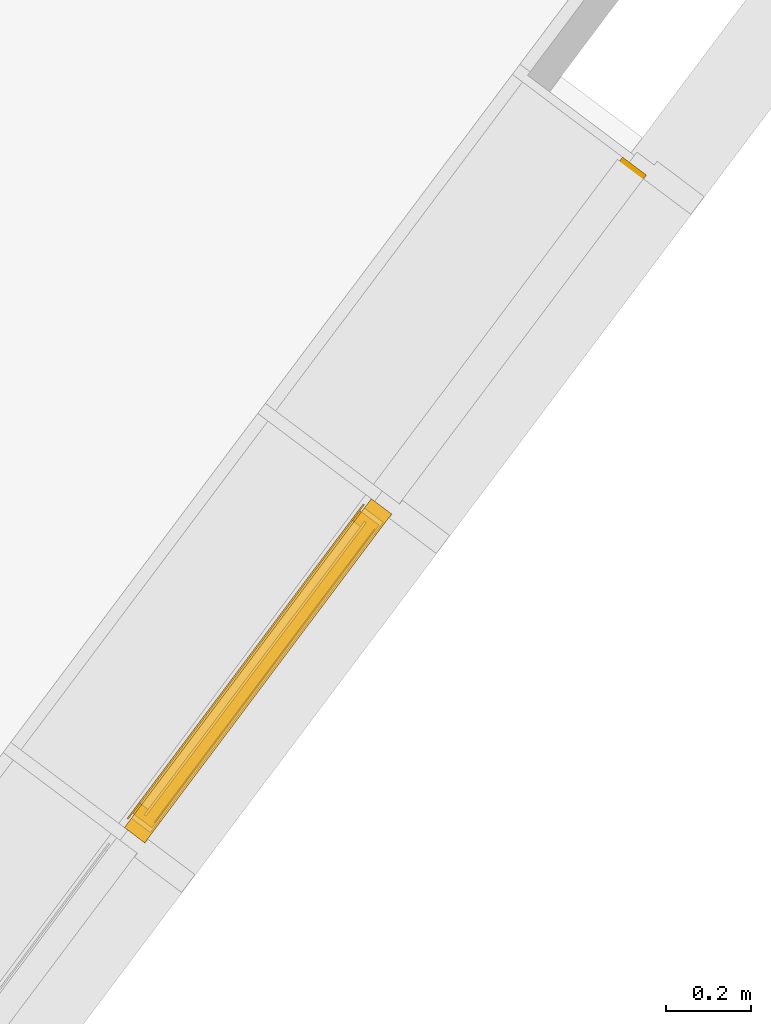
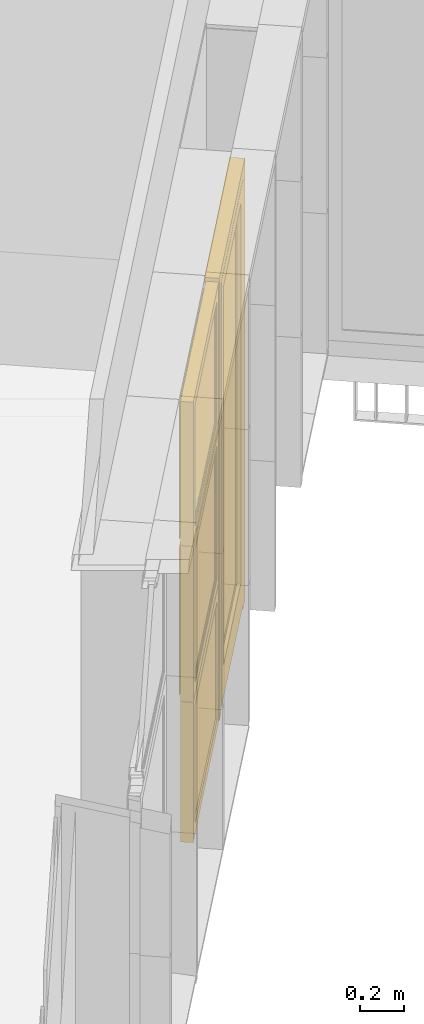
# One storey, part 196 of 243: 3 windows, 1 door, 1 element without a shape of its own.
"""IFC2X3 building model written with IfcOpenShell, lengths in metres."""

from ifc_helpers import new_model, entity, si_unit, converted_unit, derived_unit, direction, frame, origin, place, context, subcontext, project, spatial, faceted_brep, source, transform, mapped, material, material_list, type_object, type_shapes, element, aggregate, save


model = new_model("IFC2X3")

# Units and contexts
model_context = context("Model", 3, precision=1e-05, world=origin(), true_north=direction((6.123031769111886e-17, 1.0)))
body_context = subcontext(model_context, "Body", "Model", "MODEL_VIEW")
ifc_project = project(units=[si_unit("LENGTHUNIT", "METRE"), si_unit("AREAUNIT", "SQUARE_METRE"), si_unit("VOLUMEUNIT", "CUBIC_METRE"), converted_unit("PLANEANGLEUNIT", "DEGREE", entity("IfcRatioMeasure", 0.017453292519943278), si_unit("PLANEANGLEUNIT", "RADIAN"), dimensions=[0, 0, 0, 0, 0, 0, 0]), si_unit("MASSUNIT", "GRAM", prefix="KILO"), derived_unit("MASSDENSITYUNIT", [(si_unit("MASSUNIT", "GRAM", prefix="KILO"), 1), (si_unit("LENGTHUNIT", "METRE"), -3)]), derived_unit("IONCONCENTRATIONUNIT", [(si_unit("MASSUNIT", "GRAM", prefix="KILO"), 1), (si_unit("LENGTHUNIT", "METRE"), -3)]), derived_unit("MOMENTOFINERTIAUNIT", [(si_unit("LENGTHUNIT", "METRE"), 4)]), si_unit("TIMEUNIT", "SECOND"), si_unit("FREQUENCYUNIT", "HERTZ"), si_unit("THERMODYNAMICTEMPERATUREUNIT", "DEGREE_CELSIUS"), derived_unit("THERMALTRANSMITTANCEUNIT", [(si_unit("MASSUNIT", "GRAM", prefix="KILO"), 1), (si_unit("THERMODYNAMICTEMPERATUREUNIT", "KELVIN"), -1), (si_unit("TIMEUNIT", "SECOND"), -3)]), derived_unit("THERMALCONDUCTANCEUNIT", [(si_unit("MASSUNIT", "GRAM", prefix="KILO"), 1), (si_unit("THERMODYNAMICTEMPERATUREUNIT", "KELVIN"), -1), (si_unit("TIMEUNIT", "SECOND"), -3), (si_unit("LENGTHUNIT", "METRE"), 1)]), derived_unit("VOLUMETRICFLOWRATEUNIT", [(si_unit("LENGTHUNIT", "METRE"), 3), (si_unit("TIMEUNIT", "SECOND"), -1)]), derived_unit("MASSFLOWRATEUNIT", [(si_unit("MASSUNIT", "GRAM", prefix="KILO"), 1), (si_unit("TIMEUNIT", "SECOND"), -1)]), derived_unit("ROTATIONALFREQUENCYUNIT", [(si_unit("TIMEUNIT", "SECOND"), -1)]), si_unit("ELECTRICCURRENTUNIT", "AMPERE"), si_unit("ELECTRICVOLTAGEUNIT", "VOLT"), si_unit("POWERUNIT", "WATT"), si_unit("FORCEUNIT", "NEWTON", prefix="KILO"), si_unit("ILLUMINANCEUNIT", "LUX"), si_unit("LUMINOUSFLUXUNIT", "LUMEN"), si_unit("LUMINOUSINTENSITYUNIT", "CANDELA"), derived_unit("USERDEFINED", [(si_unit("MASSUNIT", "GRAM", prefix="KILO"), -1), (si_unit("LENGTHUNIT", "METRE"), -2), (si_unit("TIMEUNIT", "SECOND"), 3), (si_unit("LUMINOUSFLUXUNIT", "LUMEN"), 1)]), derived_unit("USERDEFINED", [(si_unit("MASSUNIT", "GRAM", prefix="KILO"), 1), (si_unit("TIMEUNIT", "SECOND"), -3), (si_unit("LENGTHUNIT", "METRE"), 3), (si_unit("ELECTRICCURRENTUNIT", "AMPERE"), -2)]), derived_unit("SOUNDPOWERUNIT", [(si_unit("MASSUNIT", "GRAM", prefix="KILO"), 1), (si_unit("TIMEUNIT", "SECOND"), -3), (si_unit("LENGTHUNIT", "METRE"), 2)]), derived_unit("SOUNDPRESSUREUNIT", [(si_unit("MASSUNIT", "GRAM", prefix="KILO"), 1), (si_unit("LENGTHUNIT", "METRE"), -1), (si_unit("TIMEUNIT", "SECOND"), -2)]), derived_unit("LINEARVELOCITYUNIT", [(si_unit("LENGTHUNIT", "METRE"), 1), (si_unit("TIMEUNIT", "SECOND"), -1)]), si_unit("PRESSUREUNIT", "PASCAL"), derived_unit("USERDEFINED", [(si_unit("MASSUNIT", "GRAM", prefix="KILO"), 1), (si_unit("LENGTHUNIT", "METRE"), -2), (si_unit("TIMEUNIT", "SECOND"), -2)]), derived_unit("LINEARFORCEUNIT", [(si_unit("MASSUNIT", "GRAM", prefix="KILO"), 1), (si_unit("TIMEUNIT", "SECOND"), -2)]), derived_unit("PLANARFORCEUNIT", [(si_unit("MASSUNIT", "GRAM", prefix="KILO"), 1), (si_unit("LENGTHUNIT", "METRE"), -1), (si_unit("TIMEUNIT", "SECOND"), -2)]), derived_unit("SPECIFICHEATCAPACITYUNIT", [(si_unit("THERMODYNAMICTEMPERATUREUNIT", "KELVIN"), -1), (si_unit("LENGTHUNIT", "METRE"), 2), (si_unit("TIMEUNIT", "SECOND"), -2)]), derived_unit("HEATINGVALUEUNIT", [(si_unit("LENGTHUNIT", "METRE"), 2), (si_unit("TIMEUNIT", "SECOND"), -2)]), derived_unit("VAPORPERMEABILITYUNIT", [(si_unit("LENGTHUNIT", "METRE"), -1), (si_unit("TIMEUNIT", "SECOND"), 1)]), derived_unit("DYNAMICVISCOSITYUNIT", [(si_unit("MASSUNIT", "GRAM", prefix="KILO"), 1), (si_unit("TIMEUNIT", "SECOND"), -1), (si_unit("LENGTHUNIT", "METRE"), -1)]), derived_unit("THERMALEXPANSIONCOEFFICIENTUNIT", [(si_unit("THERMODYNAMICTEMPERATUREUNIT", "KELVIN"), -1)]), derived_unit("MODULUSOFELASTICITYUNIT", [(si_unit("MASSUNIT", "GRAM", prefix="KILO"), 1), (si_unit("LENGTHUNIT", "METRE"), -1), (si_unit("TIMEUNIT", "SECOND"), -2)]), derived_unit("ISOTHERMALMOISTURECAPACITYUNIT", [(si_unit("LENGTHUNIT", "METRE"), 3), (si_unit("MASSUNIT", "GRAM", prefix="KILO"), -1)]), derived_unit("MOISTUREDIFFUSIVITYUNIT", [(si_unit("TIMEUNIT", "SECOND"), -1), (si_unit("LENGTHUNIT", "METRE"), 2)])], contexts=[model_context])

# Site, building, storey
site_placement = place(None, frame((0.0, 0.0, 235.0), z_axis=(0.0, 0.0, 1.0), x_axis=(-0.7996477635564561, 0.6004693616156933, 0.0)))
site = spatial("IfcSite", under=ifc_project, at=site_placement, Name="Default", CompositionType="ELEMENT")
building_placement = place(site_placement, origin())
building = spatial("IfcBuilding", under=site, at=building_placement, CompositionType="ELEMENT")
storey_placement = place(building_placement, origin())
storey = spatial("IfcBuildingStorey", under=building, at=storey_placement, Name="P0- Escola", CompositionType="ELEMENT", Elevation=0.0)

# Curtain wall, windows, door
curtain_wall_type = type_object("IfcCurtainWallType", Name="Muro cortina:MC- EXT- MC2", PredefinedType="NOTDEFINED")
curtain_wall_placement = place(storey_placement, origin())
curtain_wall = element("IfcCurtainWall", 1, at=curtain_wall_placement, inside=storey, type_object=curtain_wall_type, Name="Muro cortina:MC- EXT- MC2", ObjectType="Muro cortina:MC- EXT- MC2")
ifc_material_1 = material(Name="_Vidre")
ifc_material_2 = material(Name="_Alumini- T1- Perfil")
ifc_material_list_1 = material_list([ifc_material_1, ifc_material_2])
window_style_1 = type_object("IfcWindowStyle", Name="MC- Alu- Conjunt vidre fix- 62x60 cm:MC- Alu- Conjunt vidre fix- 62x60 cm", ConstructionType="NOTDEFINED", OperationType="NOTDEFINED", ParameterTakesPrecedence=False, Sizeable=False, material=ifc_material_list_1)
shared_shape_1 = source(origin(), body_context, "Body", "Brep", [
    faceted_brep([(0.4361932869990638, -0.007600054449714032, 0.048806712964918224), (0.4361932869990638, -0.03160022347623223, 0.048806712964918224), (-0.4361932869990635, -0.03160022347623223, 0.048806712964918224), (-0.4361932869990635, -0.007600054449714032, 0.048806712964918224), (0.4361932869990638, -0.007600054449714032, 0.7387000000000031), (-0.4361932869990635, -0.007600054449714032, 0.7387000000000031), (-0.4361932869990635, -0.03160022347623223, 0.7387000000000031), (0.4361932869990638, -0.03160022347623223, 0.7387000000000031)], [[[0, 1, 2, 3]], [[4, 0, 3, 5]], [[5, 3, 2, 6]], [[6, 2, 1, 7]], [[7, 1, 0, 4]], [[4, 5, 6, 7]]]),
    faceted_brep([(0.48499999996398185, -0.05999999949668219, 0.7877000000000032), (0.48499999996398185, -0.05999999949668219, 0.0), (0.48499999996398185, 0.0, 0.0), (0.48499999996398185, 0.0, 0.787700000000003), (-0.48499999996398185, 0.0, 0.7877000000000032), (-0.48499999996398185, 0.0, 0.0), (0.4221931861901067, 0.0, 0.7248931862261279), (-0.42219318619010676, 0.0, 0.724893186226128), (-0.4221931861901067, 0.0, 0.0628068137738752), (0.4221931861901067, 0.0, 0.06280681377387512), (-0.48499999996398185, -0.05999999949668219, 0.0), (-0.48499999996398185, -0.05999999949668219, 0.7877000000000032), (-0.42219603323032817, -0.05999999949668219, 0.7248960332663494), (0.42219603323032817, -0.05999999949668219, 0.7248960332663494), (0.42219603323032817, -0.05999999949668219, 0.0628039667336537), (-0.42219603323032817, -0.05999999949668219, 0.0628039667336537), (0.4221960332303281, -0.03160022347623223, 0.7248960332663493), (0.42219603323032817, -0.03160022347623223, 0.0628039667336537), (-0.42219603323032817, -0.03160022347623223, 0.06280396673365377), (-0.42219603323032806, -0.03160022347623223, 0.7248960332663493), (-0.43619328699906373, -0.03160022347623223, 0.738893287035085), (0.43619328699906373, -0.03160022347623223, 0.738893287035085), (0.43619328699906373, -0.03160022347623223, 0.048806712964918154), (-0.43619328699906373, -0.03160022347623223, 0.04880671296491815), (0.43619328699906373, -0.007600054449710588, 0.738893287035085), (0.43619328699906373, -0.007600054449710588, 0.04880671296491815), (-0.43619328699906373, -0.007600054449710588, 0.048806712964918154), (-0.43619328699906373, -0.007600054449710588, 0.738893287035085), (-0.42219318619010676, -0.007600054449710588, 0.724893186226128), (0.42219318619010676, -0.007600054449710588, 0.724893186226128), (0.42219318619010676, -0.007600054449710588, 0.06280681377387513), (-0.42219318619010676, -0.007600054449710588, 0.06280681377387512)], [[[0, 1, 2, 3]], [[4, 3, 2, 5], [6, 7, 8, 9]], [[1, 10, 5, 2]], [[0, 11, 10, 1], [12, 13, 14, 15]], [[16, 17, 14, 13]], [[17, 18, 15, 14]], [[16, 19, 18, 17], [20, 21, 22, 23]], [[24, 25, 22, 21]], [[25, 26, 23, 22]], [[24, 27, 26, 25], [28, 29, 30, 31]], [[6, 9, 30, 29]], [[9, 8, 31, 30]], [[10, 11, 4, 5]], [[18, 19, 12, 15]], [[26, 27, 20, 23]], [[8, 7, 28, 31]], [[11, 0, 3, 4]], [[19, 16, 13, 12]], [[27, 24, 21, 20]], [[7, 6, 29, 28]]], outer=[[True], [True, False], [True], [True, False], [True], [True], [False, True], [True], [True], [True, False], [True], [True], [True], [True], [True], [True], [True], [True], [True], [True]]),
])
type_shapes(window_style_1, [shared_shape_1])
window_1_placement = place(curtain_wall_placement, frame((53.74514768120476, -32.91519175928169, 0.03229999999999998), z_axis=(0.0, 0.0, 1.0), x_axis=(0.0, 1.0, 0.0)))
window_1 = element("IfcWindow", 2, at=window_1_placement, type_object=window_style_1, material=ifc_material_list_1, Name="MC- Alu- Conjunt vidre fix- 62x60 cm:MC- Alu- Conjunt vidre fix- 62x60 cm", ObjectType="MC- Alu- Conjunt vidre fix- 62x60 cm:MC- Alu- Conjunt vidre fix- 62x60 cm", OverallHeight=0.7877000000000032, OverallWidth=0.9699999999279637, context=body_context, shape_type="MappedRepresentation", body=[
    mapped(shared_shape_1, transform((0.0, 0.0, 0.0), scale=1.0)),
])
ifc_material_list_2 = material_list([ifc_material_2, ifc_material_1])
door_style = type_object("IfcDoorStyle", Name="MC- Alu- Conjunt porta- 70x60 cm- +15cm- obertura int:MC- Alu- Conjunt porta- 70x60 cm- +15cm- obertura int", ConstructionType="NOTDEFINED", OperationType="NOTDEFINED", ParameterTakesPrecedence=False, Sizeable=False, material=ifc_material_list_2)
shared_shape_2 = source(origin(), body_context, "Body", "Brep", [
    faceted_brep([(-0.4116999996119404, 0.0, 0.024000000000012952), (0.4116999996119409, 0.0, 0.024000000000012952), (0.4116999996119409, -0.06569970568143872, 0.024000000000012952), (-0.41169999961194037, -0.0656997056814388, 0.024000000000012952), (-0.4116999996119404, -0.0656997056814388, 2.410449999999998), (-0.4116999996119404, 0.0, 2.410449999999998), (0.41169999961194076, -0.06569970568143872, 2.410449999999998), (0.4356999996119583, -0.06569970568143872, 0.0), (-0.43569999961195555, -0.06569970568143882, 0.0), (-0.4356999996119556, -0.06569970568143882, 2.4344500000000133), (0.43569999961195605, -0.06569970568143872, 2.4344500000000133), (0.4116999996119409, 0.0, 2.410449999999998), (-0.3350999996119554, 0.0, 2.333850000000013), (-0.33509999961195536, 0.0, 0.20400000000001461), (0.33509999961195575, 0.0, 0.20400000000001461), (0.33509999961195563, 0.0, 2.333850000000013), (0.43569999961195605, -0.0699997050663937, 2.4344500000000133), (0.43569999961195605, -0.0699997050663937, 0.0), (-0.43569999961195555, -0.06999970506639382, 0.0), (-0.4356999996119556, -0.06999970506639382, 2.4344500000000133), (0.33509999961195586, -0.06999970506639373, 2.3338500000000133), (0.3350999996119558, -0.06999970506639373, 0.20400000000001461), (-0.33509999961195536, -0.06999970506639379, 0.20400000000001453), (-0.3350999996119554, -0.06999970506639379, 2.333850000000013), (0.33509999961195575, -0.06449970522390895, 2.333850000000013), (0.33509999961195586, -0.06449970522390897, 0.20400000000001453), (-0.33509999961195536, -0.06449970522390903, 0.20400000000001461), (-0.3350999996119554, -0.06449970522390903, 2.333850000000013), (0.3601000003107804, -0.06449970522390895, 2.3588500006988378), (0.3601000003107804, -0.06449970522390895, 0.17899999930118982), (-0.36010000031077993, -0.06449970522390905, 0.17899999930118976), (-0.36010000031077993, -0.06449970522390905, 2.3588500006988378), (0.3601000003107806, -0.01899970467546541, 2.3588500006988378), (0.3601000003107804, -0.01899970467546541, 0.17899999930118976), (-0.36010000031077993, -0.018999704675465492, 0.17899999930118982), (-0.36010000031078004, -0.01899970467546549, 2.3588500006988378), (0.33509999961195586, -0.018999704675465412, 2.3338500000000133), (0.33509999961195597, -0.018999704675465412, 0.20400000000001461), (-0.33509999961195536, -0.018999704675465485, 0.20400000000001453), (-0.3350999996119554, -0.018999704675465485, 2.333850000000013)], [[[0, 1, 2, 3]], [[4, 5, 0, 3]], [[2, 6, 4, 3], [7, 8, 9, 10]], [[2, 1, 11, 6]], [[11, 1, 0, 5], [12, 13, 14, 15]], [[16, 17, 7, 10]], [[8, 7, 17, 18]], [[18, 17, 16, 19], [20, 21, 22, 23]], [[24, 25, 21, 20]], [[21, 25, 26, 22]], [[27, 26, 25, 24], [28, 29, 30, 31]], [[32, 33, 29, 28]], [[33, 34, 30, 29]], [[35, 34, 33, 32], [36, 37, 38, 39]], [[15, 14, 37, 36]], [[37, 14, 13, 38]], [[9, 8, 18, 19]], [[23, 22, 26, 27]], [[31, 30, 34, 35]], [[39, 38, 13, 12]], [[19, 16, 10, 9]], [[27, 24, 20, 23]], [[35, 32, 28, 31]], [[12, 15, 36, 39]], [[4, 6, 11, 5]]], outer=[[True], [True], [False, True], [True], [True, False], [True], [True], [True, False], [True], [True], [False, True], [True], [True], [True, False], [True], [True], [True], [True], [True], [True], [True], [True], [True], [True], [True]]),
    faceted_brep([(0.3601000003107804, -0.06089980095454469, 0.17899999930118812), (-0.36010000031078, -0.06089980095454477, 0.17899999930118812), (-0.36010000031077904, -0.028899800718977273, 0.17899999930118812), (0.3601000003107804, -0.02889980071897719, 0.17899999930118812), (0.3601000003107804, -0.060899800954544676, 2.3588500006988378), (0.3601000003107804, -0.02889980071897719, 2.3588500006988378), (-0.36010000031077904, -0.028899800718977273, 2.3588500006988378), (-0.36010000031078, -0.06089980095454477, 2.3588500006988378)], [[[0, 1, 2, 3]], [[4, 0, 3, 5]], [[5, 3, 2, 6]], [[6, 2, 1, 7]], [[7, 1, 0, 4]], [[4, 5, 6, 7]]]),
    faceted_brep([(-0.48499999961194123, -0.06999999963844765, 0.0), (-0.48499999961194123, 0.0, 0.0), (-0.41769999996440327, 0.0, 0.0), (-0.41769999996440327, -0.008800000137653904, 0.0), (-0.43319996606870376, -0.008800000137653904, 0.0), (-0.43319996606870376, -0.059699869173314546, 0.0), (-0.4436999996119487, -0.059699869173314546, 0.0), (-0.4436999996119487, -0.06999999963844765, 0.0), (-0.44369999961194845, -0.06999999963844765, 2.442450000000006), (0.44369999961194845, -0.06999999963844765, 2.442450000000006), (0.44369999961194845, -0.06999999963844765, 0.0), (0.48499999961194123, -0.06999999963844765, 0.0), (0.48499999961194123, -0.06999999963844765, 2.4837499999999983), (-0.4849999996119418, -0.06999999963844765, 2.4837499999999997), (-0.4436999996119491, -0.059699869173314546, 2.442450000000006), (-0.43319996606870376, -0.059699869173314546, 2.4319499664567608), (0.43319996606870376, -0.059699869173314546, 2.4319499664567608), (0.43319996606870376, -0.059699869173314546, 0.0), (0.4436999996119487, -0.059699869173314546, 0.0), (0.44369999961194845, -0.059699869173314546, 2.442450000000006), (-0.433199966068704, -0.008800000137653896, 2.4319499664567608), (-0.41769999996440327, -0.008800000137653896, 2.4164500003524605), (0.41769999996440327, -0.008800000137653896, 2.4164500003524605), (0.41769999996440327, -0.008800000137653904, 0.0), (0.43319996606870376, -0.008800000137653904, 0.0), (0.43319996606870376, -0.008800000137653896, 2.4319499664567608), (-0.4176999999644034, 0.0, 2.4164500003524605), (-0.48499999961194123, 0.0, 2.4837499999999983), (0.48499999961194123, 0.0, 2.4837499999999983), (0.48499999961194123, 0.0, 0.0), (0.41769999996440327, 0.0, 0.0), (0.41769999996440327, 0.0, 2.4164500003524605)], [[[0, 1, 2, 3, 4, 5, 6, 7]], [[7, 8, 9, 10, 11, 12, 13, 0]], [[6, 14, 8, 7]], [[5, 15, 16, 17, 18, 19, 14, 6]], [[4, 20, 15, 5]], [[3, 21, 22, 23, 24, 25, 20, 4]], [[2, 26, 21, 3]], [[1, 27, 28, 29, 30, 31, 26, 2]], [[0, 13, 27, 1]], [[11, 10, 18, 17, 24, 23, 30, 29]], [[12, 11, 29, 28]], [[31, 30, 23, 22]], [[25, 24, 17, 16]], [[19, 18, 10, 9]], [[14, 19, 9, 8]], [[20, 25, 16, 15]], [[26, 31, 22, 21]], [[13, 12, 28, 27]]]),
])
type_shapes(door_style, [shared_shape_2])
door_placement = place(curtain_wall_placement, frame((53.745147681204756, -33.915191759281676, 0.020000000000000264), z_axis=(0.0, 0.0, 1.0), x_axis=(0.0, 1.0, 0.0)))
door = element("IfcDoor", 3, at=door_placement, type_object=door_style, material=ifc_material_list_2, Name="MC- Alu- Conjunt porta- 70x60 cm- +15cm- obertura int:MC- Alu- Conjunt porta- 70x60 cm- +15cm- obertura int", ObjectType="MC- Alu- Conjunt porta- 70x60 cm- +15cm- obertura int:MC- Alu- Conjunt porta- 70x60 cm- +15cm- obertura int", OverallHeight=2.483750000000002, OverallWidth=0.9699999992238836, context=body_context, shape_type="MappedRepresentation", body=[
    mapped(shared_shape_2, transform((0.0, 0.0, 0.0), scale=1.0)),
])
window_style_2 = type_object("IfcWindowStyle", Name="MC- Alu- Conjunt finestra basculant- 68x68 cm:MC- Alu- Conjunt finestra basculant- 68x68 cm", ConstructionType="NOTDEFINED", OperationType="NOTDEFINED", ParameterTakesPrecedence=False, Sizeable=False, material=ifc_material_list_1)
shared_shape_3 = source(origin(), body_context, "Body", "Brep", [
    faceted_brep([(0.43291170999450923, -0.03559830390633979, 0.051999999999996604), (-0.43291170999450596, -0.03559830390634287, 0.051999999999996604), (-0.43291170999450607, -0.011598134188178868, 0.051999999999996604), (0.43291170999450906, -0.011598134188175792, 0.051999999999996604), (0.43291170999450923, -0.035598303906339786, 0.8228027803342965), (0.43291170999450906, -0.011598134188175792, 0.8228027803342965), (-0.43291170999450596, -0.011598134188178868, 0.8228027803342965), (-0.43291170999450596, -0.03559830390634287, 0.8228027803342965)], [[[0, 1, 2, 3]], [[4, 0, 3, 5]], [[5, 3, 2, 6]], [[6, 2, 1, 7]], [[7, 1, 0, 4]], [[4, 5, 6, 7]]]),
    faceted_brep([(-0.4172108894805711, -0.009998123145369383, 0.8071019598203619), (-0.4172108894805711, -0.00999812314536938, 0.06789804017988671), (-0.4172108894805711, -0.007998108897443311, 0.06789804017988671), (-0.4172108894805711, -0.007998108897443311, 0.8071019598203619), (-0.44610892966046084, -0.007998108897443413, 0.8360000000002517), (0.44610892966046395, -0.007998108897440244, 0.8360000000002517), (0.44610892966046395, -0.007998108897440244, 0.03899999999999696), (-0.44610892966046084, -0.007998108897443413, 0.03899999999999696), (0.4172108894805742, -0.007998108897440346, 0.8071019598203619), (0.4172108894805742, -0.007998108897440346, 0.06789804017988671), (0.4172108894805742, -0.009998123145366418, 0.06789804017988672), (0.4172108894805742, -0.009998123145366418, 0.8071019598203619), (0.4329117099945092, -0.00999812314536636, 0.8228027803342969), (-0.43291170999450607, -0.009998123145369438, 0.8228027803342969), (-0.43291170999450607, -0.009998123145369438, 0.05219721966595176), (0.4329117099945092, -0.00999812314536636, 0.052197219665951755), (-0.4329117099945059, -0.04079986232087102, 0.8228027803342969), (-0.4329117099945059, -0.04079986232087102, 0.052197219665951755), (0.4329117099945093, -0.04079986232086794, 0.05219721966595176), (0.4329117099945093, -0.04079986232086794, 0.8228027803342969), (0.41721088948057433, -0.040799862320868, 0.8071019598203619), (-0.41721088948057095, -0.04079986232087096, 0.8071019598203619), (-0.41721088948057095, -0.04079986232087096, 0.06789804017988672), (0.41721088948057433, -0.040799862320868, 0.06789804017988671), (-0.4172108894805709, -0.06800005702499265, 0.8071019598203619), (-0.4172108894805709, -0.06800005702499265, 0.06789804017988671), (0.4172108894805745, -0.0680000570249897, 0.06789804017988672), (0.4172108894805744, -0.0680000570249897, 0.8071019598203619), (0.4636128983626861, -0.06800005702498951, 0.8535039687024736), (-0.4636128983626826, -0.06800005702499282, 0.8535039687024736), (-0.4636128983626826, -0.06800005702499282, 0.021496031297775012), (0.4636128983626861, -0.06800005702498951, 0.021496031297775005), (-0.4636128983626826, -0.0645000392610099, 0.8535039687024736), (-0.4636128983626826, -0.06450003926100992, 0.021496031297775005), (0.4636128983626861, -0.06450003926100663, 0.021496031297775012), (0.4636128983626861, -0.06450003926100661, 0.8535039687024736), (0.44610892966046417, -0.06450003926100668, 0.8360000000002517), (-0.4461089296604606, -0.06450003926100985, 0.8360000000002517), (-0.4461089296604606, -0.06450003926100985, 0.03899999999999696), (0.44610892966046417, -0.06450003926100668, 0.038999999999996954)], [[[0, 1, 2, 3]], [[4, 5, 6, 7], [8, 3, 2, 9]], [[1, 10, 9, 2]], [[0, 11, 10, 1], [12, 13, 14, 15]], [[16, 17, 14, 13]], [[17, 18, 15, 14]], [[16, 19, 18, 17], [20, 21, 22, 23]], [[24, 25, 22, 21]], [[25, 26, 23, 22]], [[24, 27, 26, 25], [28, 29, 30, 31]], [[32, 33, 30, 29]], [[33, 34, 31, 30]], [[32, 35, 34, 33], [36, 37, 38, 39]], [[4, 7, 38, 37]], [[7, 6, 39, 38]], [[10, 11, 8, 9]], [[18, 19, 12, 15]], [[26, 27, 20, 23]], [[34, 35, 28, 31]], [[6, 5, 36, 39]], [[11, 0, 3, 8]], [[19, 16, 13, 12]], [[27, 24, 21, 20]], [[35, 32, 29, 28]], [[5, 4, 37, 36]]], outer=[[True], [True, False], [True], [False, True], [True], [True], [True, False], [True], [True], [False, True], [True], [True], [True, False], [True], [True], [True], [True], [True], [True], [True], [True], [True], [True], [True], [True]]),
    faceted_brep([(0.42219318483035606, 0.0, 0.8121931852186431), (0.42219318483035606, 0.0, 0.06280681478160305), (0.42219318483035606, -0.0040000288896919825, 0.06280681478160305), (0.42219318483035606, -0.0040000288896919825, 0.8121931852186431), (-0.42219318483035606, -0.0040000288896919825, 0.8121931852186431), (-0.42219318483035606, -0.0040000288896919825, 0.06280681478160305), (0.4575998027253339, -0.0040000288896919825, 0.8475998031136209), (-0.4575998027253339, -0.0040000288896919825, 0.8475998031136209), (-0.4575998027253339, -0.0040000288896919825, 0.027400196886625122), (0.4575998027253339, -0.0040000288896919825, 0.02740019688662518), (-0.42219318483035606, 0.0, 0.06280681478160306), (-0.42219318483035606, 0.0, 0.8121931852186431), (-0.48499999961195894, 0.0, 0.875000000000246), (0.48499999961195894, 0.0, 0.875000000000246), (0.48499999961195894, 0.0, 0.0), (-0.48499999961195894, 0.0, 0.0), (0.48499999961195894, -0.05999999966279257, 0.875000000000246), (0.48499999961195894, -0.05999999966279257, 0.0), (-0.48499999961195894, -0.05999999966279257, 0.0), (-0.48499999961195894, -0.05999999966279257, 0.875000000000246), (-0.4575998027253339, -0.05999999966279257, 0.8475998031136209), (0.4575998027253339, -0.05999999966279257, 0.8475998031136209), (0.4575998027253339, -0.05999999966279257, 0.027400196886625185), (-0.4575998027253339, -0.05999999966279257, 0.02740019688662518)], [[[0, 1, 2, 3]], [[4, 3, 2, 5], [6, 7, 8, 9]], [[1, 10, 5, 2]], [[0, 11, 10, 1], [12, 13, 14, 15]], [[16, 17, 14, 13]], [[17, 18, 15, 14]], [[16, 19, 18, 17], [20, 21, 22, 23]], [[6, 9, 22, 21]], [[9, 8, 23, 22]], [[10, 11, 4, 5]], [[18, 19, 12, 15]], [[8, 7, 20, 23]], [[11, 0, 3, 4]], [[19, 16, 13, 12]], [[7, 6, 21, 20]]], outer=[[True], [False, True], [True], [False, True], [True], [True], [True, False], [True], [True], [True], [True], [True], [True], [True], [True]]),
])
type_shapes(window_style_2, [shared_shape_3])
window_2_placement = place(curtain_wall_placement, frame((53.74514768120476, -32.91519175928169, 0.8200000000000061), z_axis=(0.0, 0.0, 1.0), x_axis=(0.0, 1.0, 0.0)))
window_2 = element("IfcWindow", 4, at=window_2_placement, type_object=window_style_2, material=ifc_material_list_1, Name="MC- Alu- Conjunt finestra basculant- 68x68 cm:MC- Alu- Conjunt finestra basculant- 68x68 cm", ObjectType="MC- Alu- Conjunt finestra basculant- 68x68 cm:MC- Alu- Conjunt finestra basculant- 68x68 cm", OverallHeight=0.8750000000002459, OverallWidth=0.9699999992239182, context=body_context, shape_type="MappedRepresentation", body=[
    mapped(shared_shape_3, transform((0.0, 0.0, 0.0), scale=1.0)),
])
window_style_3 = type_object("IfcWindowStyle", Name="MC- Alu- Conjunt finestra basculant- 68x68 cm:MC- Alu- Conjunt finestra basculant- 68x68 cm", ConstructionType="NOTDEFINED", OperationType="NOTDEFINED", ParameterTakesPrecedence=False, Sizeable=False, material=ifc_material_list_1)
shared_shape_4 = source(origin(), body_context, "Body", "Brep", [
    faceted_brep([(0.432911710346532, -0.03559830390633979, 0.051999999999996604), (-0.43291171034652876, -0.03559830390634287, 0.051999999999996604), (-0.4329117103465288, -0.011598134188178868, 0.051999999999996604), (0.43291171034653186, -0.011598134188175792, 0.051999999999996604), (0.432911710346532, -0.035598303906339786, 0.7565527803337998), (0.43291171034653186, -0.011598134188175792, 0.7565527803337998), (-0.43291171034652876, -0.011598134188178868, 0.7565527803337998), (-0.43291171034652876, -0.03559830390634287, 0.7565527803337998)], [[[0, 1, 2, 3]], [[4, 0, 3, 5]], [[5, 3, 2, 6]], [[6, 2, 1, 7]], [[7, 1, 0, 4]], [[4, 5, 6, 7]]]),
    faceted_brep([(-0.41721088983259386, -0.009998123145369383, 0.7408519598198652), (-0.41721088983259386, -0.00999812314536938, 0.06789804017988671), (-0.41721088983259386, -0.007998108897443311, 0.06789804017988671), (-0.41721088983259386, -0.007998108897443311, 0.7408519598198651), (-0.4461089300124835, -0.007998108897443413, 0.7697499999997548), (0.44610893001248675, -0.007998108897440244, 0.7697499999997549), (0.4461089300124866, -0.007998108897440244, 0.03899999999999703), (-0.44610893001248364, -0.007998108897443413, 0.03899999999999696), (0.41721088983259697, -0.007998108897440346, 0.7408519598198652), (0.41721088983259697, -0.007998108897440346, 0.06789804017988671), (0.41721088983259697, -0.009998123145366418, 0.06789804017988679), (0.41721088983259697, -0.009998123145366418, 0.7408519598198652), (0.4329117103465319, -0.00999812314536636, 0.7565527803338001), (-0.4329117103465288, -0.009998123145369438, 0.7565527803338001), (-0.4329117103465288, -0.009998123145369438, 0.05219721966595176), (0.4329117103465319, -0.00999812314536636, 0.052197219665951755), (-0.4329117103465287, -0.04079986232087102, 0.7565527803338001), (-0.4329117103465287, -0.04079986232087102, 0.052197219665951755), (0.4329117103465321, -0.04079986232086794, 0.05219721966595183), (0.4329117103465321, -0.04079986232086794, 0.7565527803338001), (0.41721088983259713, -0.040799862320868, 0.7408519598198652), (-0.41721088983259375, -0.04079986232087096, 0.7408519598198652), (-0.41721088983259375, -0.04079986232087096, 0.06789804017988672), (0.41721088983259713, -0.040799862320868, 0.06789804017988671), (-0.4172108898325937, -0.06800005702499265, 0.7408519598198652), (-0.4172108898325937, -0.06800005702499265, 0.06789804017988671), (0.41721088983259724, -0.0680000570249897, 0.06789804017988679), (0.4172108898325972, -0.0680000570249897, 0.7408519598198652), (0.4636128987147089, -0.06800005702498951, 0.7872539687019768), (-0.46361289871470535, -0.06800005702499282, 0.7872539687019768), (-0.46361289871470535, -0.06800005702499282, 0.021496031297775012), (0.4636128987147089, -0.06800005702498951, 0.021496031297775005), (-0.46361289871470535, -0.0645000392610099, 0.7872539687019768), (-0.46361289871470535, -0.06450003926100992, 0.021496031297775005), (0.4636128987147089, -0.06450003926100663, 0.02149603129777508), (0.4636128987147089, -0.06450003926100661, 0.7872539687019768), (0.4461089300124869, -0.06450003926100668, 0.7697499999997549), (-0.4461089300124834, -0.06450003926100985, 0.7697499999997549), (-0.4461089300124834, -0.06450003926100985, 0.03899999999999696), (0.4461089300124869, -0.06450003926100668, 0.038999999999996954)], [[[0, 1, 2, 3]], [[4, 5, 6, 7], [8, 3, 2, 9]], [[1, 10, 9, 2]], [[0, 11, 10, 1], [12, 13, 14, 15]], [[16, 17, 14, 13]], [[17, 18, 15, 14]], [[16, 19, 18, 17], [20, 21, 22, 23]], [[24, 25, 22, 21]], [[25, 26, 23, 22]], [[24, 27, 26, 25], [28, 29, 30, 31]], [[32, 33, 30, 29]], [[33, 34, 31, 30]], [[32, 35, 34, 33], [36, 37, 38, 39]], [[4, 7, 38, 37]], [[7, 6, 39, 38]], [[10, 11, 8, 9]], [[18, 19, 12, 15]], [[26, 27, 20, 23]], [[34, 35, 28, 31]], [[6, 5, 36, 39]], [[11, 0, 3, 8]], [[19, 16, 13, 12]], [[27, 24, 21, 20]], [[35, 32, 29, 28]], [[5, 4, 37, 36]]], outer=[[True], [True, False], [True], [False, True], [True], [True], [True, False], [True], [True], [False, True], [True], [True], [True, False], [True], [True], [True], [True], [True], [True], [True], [True], [True], [True], [True], [True]]),
    faceted_brep([(0.4221931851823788, 0.0, 0.7459431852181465), (0.4221931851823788, 0.0, 0.06280681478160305), (0.4221931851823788, -0.0040000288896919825, 0.06280681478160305), (0.4221931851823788, -0.0040000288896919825, 0.7459431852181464), (-0.4221931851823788, -0.0040000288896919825, 0.7459431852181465), (-0.4221931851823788, -0.0040000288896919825, 0.06280681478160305), (0.4575998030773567, -0.0040000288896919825, 0.7813498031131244), (-0.4575998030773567, -0.0040000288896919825, 0.7813498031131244), (-0.4575998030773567, -0.0040000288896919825, 0.027400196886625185), (0.4575998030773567, -0.0040000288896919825, 0.02740019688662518), (-0.4221931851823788, 0.0, 0.06280681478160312), (-0.4221931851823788, 0.0, 0.7459431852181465), (-0.48499999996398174, 0.0, 0.8087499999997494), (0.48499999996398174, 0.0, 0.8087499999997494), (0.48499999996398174, 0.0, 0.0), (-0.48499999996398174, 0.0, 0.0), (0.48499999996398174, -0.05999999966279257, 0.8087499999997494), (0.48499999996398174, -0.05999999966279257, 0.0), (-0.48499999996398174, -0.05999999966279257, 0.0), (-0.48499999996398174, -0.05999999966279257, 0.8087499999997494), (-0.4575998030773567, -0.05999999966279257, 0.7813498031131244), (0.4575998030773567, -0.05999999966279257, 0.7813498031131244), (0.4575998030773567, -0.05999999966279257, 0.027400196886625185), (-0.4575998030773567, -0.05999999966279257, 0.02740019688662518)], [[[0, 1, 2, 3]], [[4, 3, 2, 5], [6, 7, 8, 9]], [[1, 10, 5, 2]], [[0, 11, 10, 1], [12, 13, 14, 15]], [[16, 17, 14, 13]], [[17, 18, 15, 14]], [[16, 19, 18, 17], [20, 21, 22, 23]], [[6, 9, 22, 21]], [[9, 8, 23, 22]], [[10, 11, 4, 5]], [[18, 19, 12, 15]], [[8, 7, 20, 23]], [[11, 0, 3, 4]], [[19, 16, 13, 12]], [[7, 6, 21, 20]]], outer=[[True], [False, True], [True], [False, True], [True], [True], [True, False], [True], [True], [True], [True], [True], [True], [True], [True]]),
])
type_shapes(window_style_3, [shared_shape_4])
window_3_placement = place(curtain_wall_placement, frame((53.74514768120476, -32.91519175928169, 1.6950000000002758), z_axis=(0.0, 0.0, 1.0), x_axis=(0.0, 1.0, 0.0)))
window_3 = element("IfcWindow", 5, at=window_3_placement, type_object=window_style_3, material=ifc_material_list_1, Name="MC- Alu- Conjunt finestra basculant- 68x68 cm:MC- Alu- Conjunt finestra basculant- 68x68 cm", ObjectType="MC- Alu- Conjunt finestra basculant- 68x68 cm:MC- Alu- Conjunt finestra basculant- 68x68 cm", OverallHeight=0.8087499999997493, OverallWidth=0.9699999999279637, context=body_context, shape_type="MappedRepresentation", body=[
    mapped(shared_shape_4, transform((0.0, 0.0, 0.0), scale=1.0)),
])
aggregate(curtain_wall, [window_1, door, window_2, window_3])

save(model, "model.ifc")
